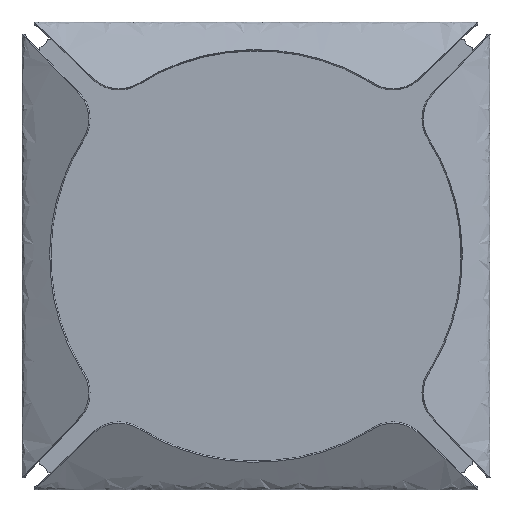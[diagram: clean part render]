
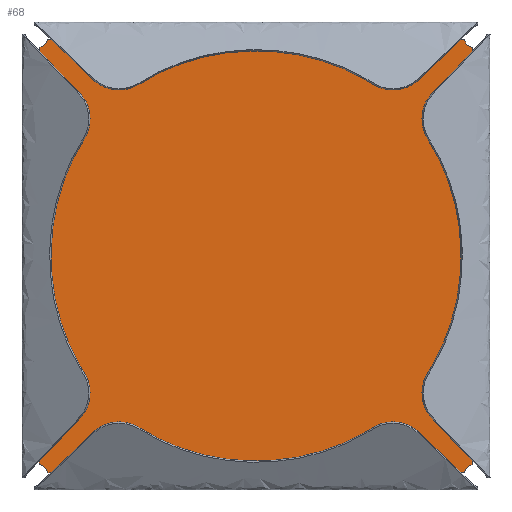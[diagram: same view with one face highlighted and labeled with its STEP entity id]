
A CAD part, top view. The second image highlights one B-rep face of the part: STEP entity #68.
In plain terms, the highlighted planar face has unit normal (0, 0, 1).
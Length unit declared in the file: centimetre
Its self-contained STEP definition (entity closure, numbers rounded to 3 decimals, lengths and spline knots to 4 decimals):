
#68=ADVANCED_FACE($,(#140),#955,.T.);
#140=FACE_OUTER_BOUND($,#212,.T.);
#212=EDGE_LOOP($,(#296,#297));
#296=ORIENTED_EDGE($,*,*,#643,.F.);
#297=ORIENTED_EDGE($,*,*,#640,.F.);
#640=EDGE_CURVE($,#813,#815,#1091,.T.);
#643=EDGE_CURVE($,#815,#813,#1093,.T.);
#813=VERTEX_POINT($,#1407);
#815=VERTEX_POINT($,#1409);
#955=PLANE($,#1231);
#1091=(
BOUNDED_CURVE()
B_SPLINE_CURVE(2,(#1283,#1284,#1285,#1286,#1287,#1288,#1289,#1290,#1291,
#1292,#1293,#1294,#1295,#1296,#1297,#1298,#1299),.UNSPECIFIED.,.F.,.F.)
B_SPLINE_CURVE_WITH_KNOTS((3,2,2,2,2,2,2,2,3),(200.8639,201.158,
203.6248,203.919,299.939,300.2331,302.7,
302.9941,399.0141),.UNSPECIFIED.)
CURVE()
GEOMETRIC_REPRESENTATION_ITEM()
RATIONAL_B_SPLINE_CURVE((1.,0.742,1.,0.774,1.,0.742,
1.,1.,1.,0.742,1.,0.774,1.,0.742,1.,1.,
1.))
REPRESENTATION_ITEM($)
);
#1093=(
BOUNDED_CURVE()
B_SPLINE_CURVE(2,(#1319,#1320,#1321,#1322,#1323,#1324,#1325,#1326,#1327,
#1328,#1329,#1330,#1331,#1332,#1333,#1334,#1335),.UNSPECIFIED.,.F.,.F.)
B_SPLINE_CURVE_WITH_KNOTS((3,2,2,2,2,2,2,2,3),(399.0141,399.3083,
401.7751,402.0692,498.0893,498.3834,500.8502,
501.1444,597.1644),.UNSPECIFIED.)
CURVE()
GEOMETRIC_REPRESENTATION_ITEM()
RATIONAL_B_SPLINE_CURVE((1.,0.742,1.,0.774,1.,0.742,
1.,1.,1.,0.742,1.,0.774,1.,0.742,1.,
1.,1.))
REPRESENTATION_ITEM($)
);
#1231=AXIS2_PLACEMENT_3D($,#1371,#1248,$);
#1248=DIRECTION($,(0.,0.,1.));
#1283=CARTESIAN_POINT($,(0.,98.01,1.1));
#1284=CARTESIAN_POINT($,(0.,98.1909,1.1));
#1285=CARTESIAN_POINT($,(0.18,98.209,1.1));
#1286=CARTESIAN_POINT($,(1.6439,98.3561,1.1));
#1287=CARTESIAN_POINT($,(1.791,99.82,1.1));
#1288=CARTESIAN_POINT($,(1.8091,100.,1.1));
#1289=CARTESIAN_POINT($,(1.99,100.,1.1));
#1290=CARTESIAN_POINT($,(50.,100.,1.1));
#1291=CARTESIAN_POINT($,(98.01,100.,1.1));
#1292=CARTESIAN_POINT($,(98.1909,100.,1.1));
#1293=CARTESIAN_POINT($,(98.209,99.82,1.1));
#1294=CARTESIAN_POINT($,(98.3561,98.3561,1.1));
#1295=CARTESIAN_POINT($,(99.82,98.209,1.1));
#1296=CARTESIAN_POINT($,(100.,98.1909,1.1));
#1297=CARTESIAN_POINT($,(100.,98.01,1.1));
#1298=CARTESIAN_POINT($,(100.,50.,1.1));
#1299=CARTESIAN_POINT($,(100.,1.99,1.1));
#1319=CARTESIAN_POINT($,(100.,1.99,1.1));
#1320=CARTESIAN_POINT($,(100.,1.8091,1.1));
#1321=CARTESIAN_POINT($,(99.82,1.791,1.1));
#1322=CARTESIAN_POINT($,(98.3561,1.6439,1.1));
#1323=CARTESIAN_POINT($,(98.209,0.18,1.1));
#1324=CARTESIAN_POINT($,(98.1909,0.,1.1));
#1325=CARTESIAN_POINT($,(98.01,0.,1.1));
#1326=CARTESIAN_POINT($,(50.,0.,1.1));
#1327=CARTESIAN_POINT($,(1.99,0.,1.1));
#1328=CARTESIAN_POINT($,(1.8091,0.,1.1));
#1329=CARTESIAN_POINT($,(1.791,0.18,1.1));
#1330=CARTESIAN_POINT($,(1.6439,1.6439,1.1));
#1331=CARTESIAN_POINT($,(0.18,1.791,1.1));
#1332=CARTESIAN_POINT($,(0.,1.8091,1.1));
#1333=CARTESIAN_POINT($,(0.,1.99,1.1));
#1334=CARTESIAN_POINT($,(0.,50.,1.1));
#1335=CARTESIAN_POINT($,(0.,98.01,1.1));
#1371=CARTESIAN_POINT($,(0.,100.,1.1));
#1407=CARTESIAN_POINT($,(0.,98.01,1.1));
#1409=CARTESIAN_POINT($,(100.,1.99,1.1));
